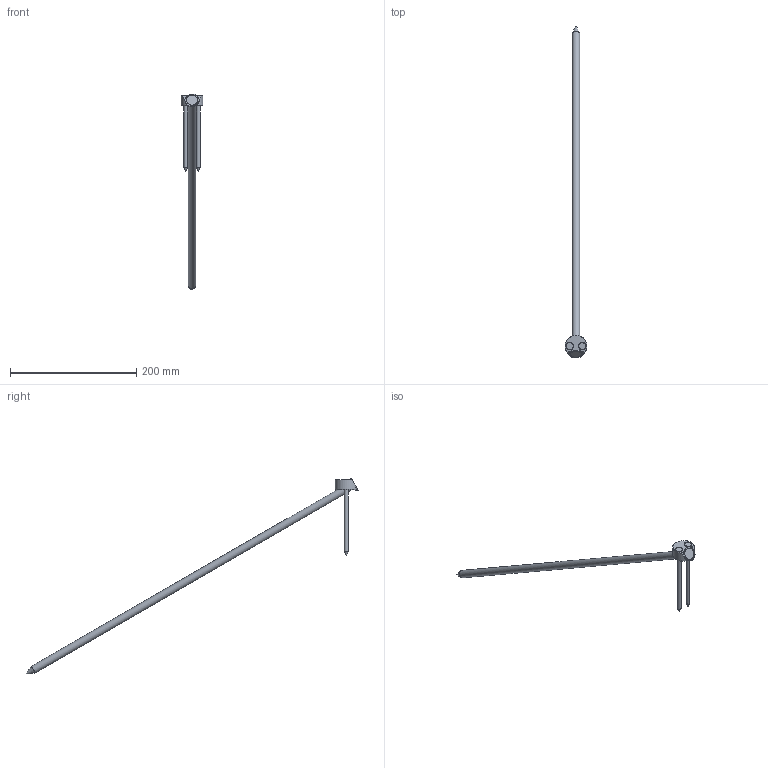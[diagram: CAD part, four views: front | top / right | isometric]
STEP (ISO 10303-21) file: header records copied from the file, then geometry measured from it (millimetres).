
FILE_DESCRIPTION(/* description */ ('Unknown'),/* implementation_level */ '2;1');
FILE_NAME(/* name */ 'T-Joint_D35_W30_2xSK6x120_1xSK12x600',/* time_stamp */ '2020-06-16T10:58:19+02:00',/* author */ ('Unknown'),/* organization */ ('Unknown'),/* preprocessor_version */ 'ST-DEVELOPER v16.7',/* originating_system */ 'DEX',/* authorisation */ $);
FILE_SCHEMA (('AUTOMOTIVE_DESIGN {1 0 10303 214 3 1 1}'));
Length unit declared in the file: millimetre
Products named in the file (4): T-Joint_D35_W30_2xSK6x120_1xSK12x600; T-Joint_D35_W30; SK Schraube 6x120_ohne_Gewinde; SK Schraube 12x600_ohne_Gewinde_22042020
Assembly tree (4 placements, depth 2):
  T-Joint_D35_W30_2xSK6x120_1xSK12x600
    T-Joint_D35_W30
    SK Schraube 6x120_ohne_Gewinde  x2
    SK Schraube 12x600_ohne_Gewinde_22042020
Bounding box: 34.79 x 525.47 x 310.14 mm (x, y, z)
Volume: 85286 mm3; surface area: 31968.4 mm2
Topology: 4 solids, 4 shells, 30 faces, 59 edges, 36 vertices
Faces by surface type: cylinder 10, plane 9, cone 9, torus 2
Full cylindrical faces by diameter (mm): 6 x2, 6.2 x2, 11 x2, 12 x1, 12.5 x1, 22.5 x1, 34.8 x1
Entity records: 638 total; most frequent: DIRECTION 108, CARTESIAN_POINT 96, ORIENTED_EDGE 58, AXIS2_PLACEMENT_3D 53, EDGE_LOOP 45, FACE_BOUND 45, EDGE_CURVE 29, VERTEX_POINT 26
